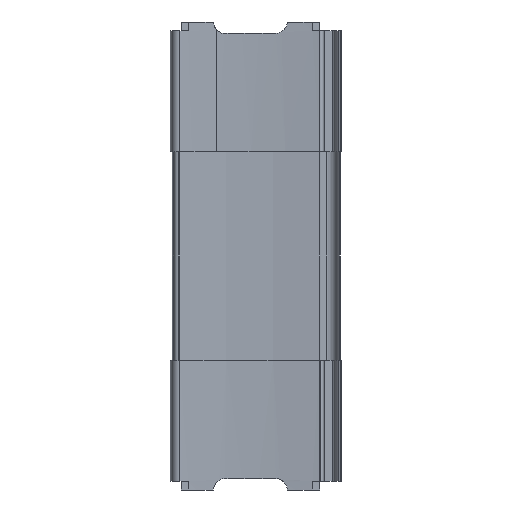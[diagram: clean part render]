
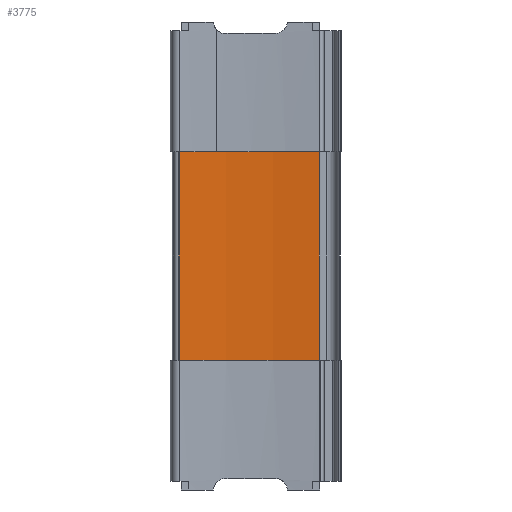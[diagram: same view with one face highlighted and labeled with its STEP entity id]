
A CAD part, left-side view. The second image highlights one B-rep face of the part: STEP entity #3775.
In plain terms, the highlighted cylindrical face has radius 250 mm (diameter 500 mm), a partial arc.
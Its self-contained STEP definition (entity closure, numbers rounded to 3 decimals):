
#130 = EDGE_CURVE ( 'NONE', #4188, #4352, #3075, .T. ) ;
#133 = EDGE_CURVE ( 'NONE', #4183, #4188, #3077, .T. ) ;
#712 = CARTESIAN_POINT ( 'NONE',  ( -255.319, 48.963, 41. ) ) ;
#721 = DIRECTION ( 'NONE',  ( 0., 0., -1. ) ) ;
#722 = DIRECTION ( 'NONE',  ( 1., 0., 0. ) ) ;
#776 = CARTESIAN_POINT ( 'NONE',  ( -5.747, 63.571, 47. ) ) ;
#777 = DIRECTION ( 'NONE',  ( 0., 0., -1. ) ) ;
#1296 = DIRECTION ( 'NONE',  ( 0., 0., -1. ) ) ;
#1299 = DIRECTION ( 'NONE',  ( -1., 0., 0. ) ) ;
#1307 = CARTESIAN_POINT ( 'NONE',  ( -255.319, 48.963, 47. ) ) ;
#1587 = EDGE_CURVE ( 'NONE', #4177, #4183, #3349, .T. ) ;
#1607 = EDGE_CURVE ( 'NONE', #4177, #4352, #3370, .T. ) ;
#1683 = AXIS2_PLACEMENT_3D ( 'NONE', #3675, #3670, #3669 ) ;
#1774 = AXIS2_PLACEMENT_3D ( 'NONE', #712, #721, #722 ) ;
#1869 = CARTESIAN_POINT ( 'NONE',  ( -5.747, 63.571, 41. ) ) ;
#1875 = CARTESIAN_POINT ( 'NONE',  ( -8.643, 8.331, 41. ) ) ;
#1880 = CARTESIAN_POINT ( 'NONE',  ( -8.643, 8.331, -41. ) ) ;
#1937 = CARTESIAN_POINT ( 'NONE',  ( -5.747, 63.571, -41. ) ) ;
#2150 = EDGE_LOOP ( 'NONE', ( #2752, #2753, #2826, #2754 ) ) ;
#2752 = ORIENTED_EDGE ( 'NONE', *, *, #130, .F. ) ;
#2753 = ORIENTED_EDGE ( 'NONE', *, *, #133, .F. ) ;
#2754 = ORIENTED_EDGE ( 'NONE', *, *, #1607, .T. ) ;
#2826 = ORIENTED_EDGE ( 'NONE', *, *, #1587, .F. ) ;
#3075 = CIRCLE ( 'NONE', #1683, 250. ) ;
#3077 = LINE ( 'NONE', #3667, #3078 ) ;
#3078 = VECTOR ( 'NONE', #3665, 1000. ) ;
#3349 = CIRCLE ( 'NONE', #1774, 250. ) ;
#3369 = VECTOR ( 'NONE', #777, 1000. ) ;
#3370 = LINE ( 'NONE', #776, #3369 ) ;
#3588 = FACE_OUTER_BOUND ( 'NONE', #2150, .T. ) ;
#3590 = CYLINDRICAL_SURFACE ( 'NONE', #3914, 250. ) ;
#3665 = DIRECTION ( 'NONE',  ( 0., 0., -1. ) ) ;
#3667 = CARTESIAN_POINT ( 'NONE',  ( -8.643, 8.331, 47. ) ) ;
#3669 = DIRECTION ( 'NONE',  ( -1., 0., 0. ) ) ;
#3670 = DIRECTION ( 'NONE',  ( 0., 0., 1. ) ) ;
#3675 = CARTESIAN_POINT ( 'NONE',  ( -255.319, 48.963, -41. ) ) ;
#3775 = ADVANCED_FACE ( 'NONE', ( #3588 ), #3590, .F. ) ;
#3914 = AXIS2_PLACEMENT_3D ( 'NONE', #1307, #1296, #1299 ) ;
#4177 = VERTEX_POINT ( 'NONE', #1869 ) ;
#4183 = VERTEX_POINT ( 'NONE', #1875 ) ;
#4188 = VERTEX_POINT ( 'NONE', #1880 ) ;
#4352 = VERTEX_POINT ( 'NONE', #1937 ) ;
